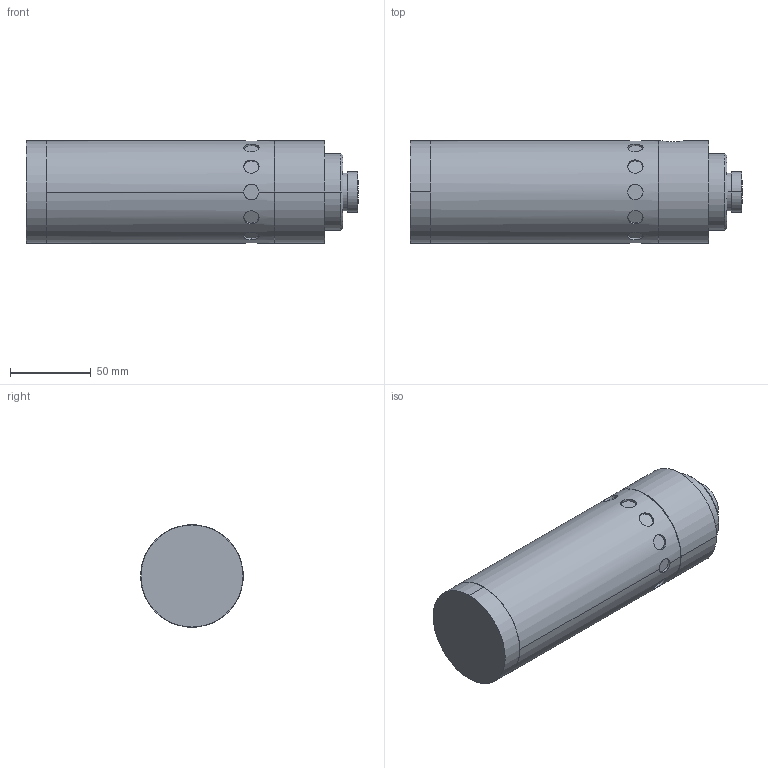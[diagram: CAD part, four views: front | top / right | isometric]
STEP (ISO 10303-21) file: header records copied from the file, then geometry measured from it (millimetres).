
FILE_DESCRIPTION (( 'STEP AP203' ), '1' );
FILE_NAME ('HT4630_V1.step', '2018-03-28T06:52:06', ( '' ), ( '' ), 'SwSTEP 2.0', 'SolidWorks 2017', '' );
FILE_SCHEMA (( 'CONFIG_CONTROL_DESIGN' ));
Length unit declared in the file: inch
Products named in the file (2): HT4630_V1
Bounding box: 205.74 x 63.5 x 63.5 mm (x, y, z)
Volume: 594779.9 mm3; surface area: 52440.4 mm2
Topology: 1 solids, 1 shells, 90 faces, 187 edges, 122 vertices
Faces by surface type: cylinder 54, plane 28, cone 8
Entity records: 3398 total; most frequent: CARTESIAN_POINT 1289, DIRECTION 429, ORIENTED_EDGE 374, EDGE_CURVE 187, AXIS2_PLACEMENT_3D 182, VERTEX_POINT 122, EDGE_LOOP 113, CIRCLE 90
